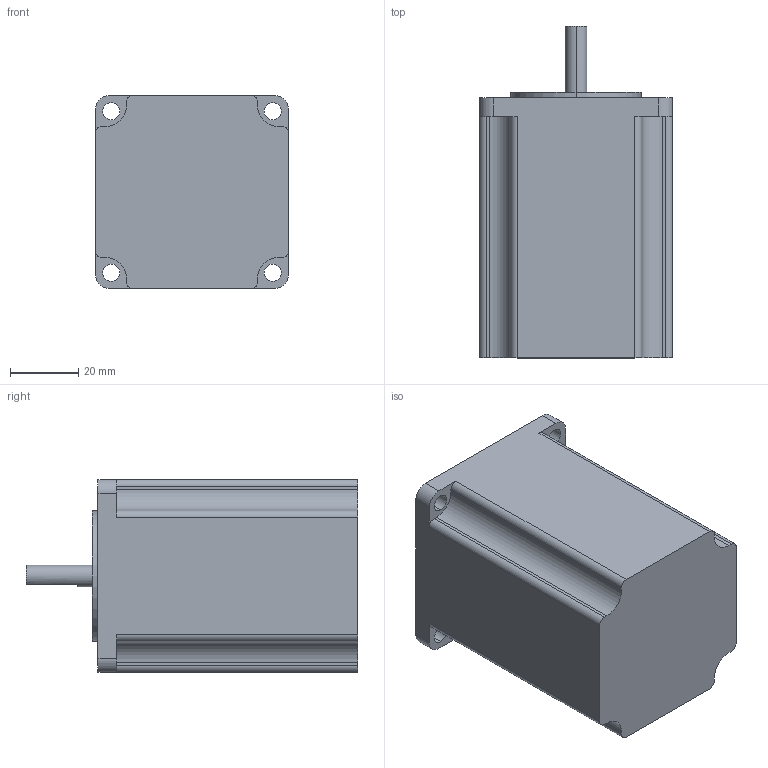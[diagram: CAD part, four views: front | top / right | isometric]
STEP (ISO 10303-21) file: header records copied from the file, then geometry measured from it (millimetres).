
FILE_DESCRIPTION (( 'STEP AP203' ), '1' );
FILE_NAME ('2S57Q-1376.STEP', '2015-05-05T03:50:20', ( 'IT毞諾' ), ( 'iTianKong.com' ), 'SwSTEP 2.0', 'SolidWorks 2008', '' );
FILE_SCHEMA (( 'CONFIG_CONTROL_DESIGN' ));
Length unit declared in the file: millimetre
Products named in the file (1): 2S57Q-1376
Bounding box: 56.4 x 97 x 56.4 mm (x, y, z)
Volume: 222516.5 mm3; surface area: 22995.6 mm2
Topology: 1 solids, 1 shells, 50 faces, 138 edges, 92 vertices
Faces by surface type: cylinder 28, plane 22
Entity records: 1713 total; most frequent: DIRECTION 298, CARTESIAN_POINT 281, ORIENTED_EDGE 276, EDGE_CURVE 138, AXIS2_PLACEMENT_3D 109, VERTEX_POINT 92, VECTOR 80, LINE 80
